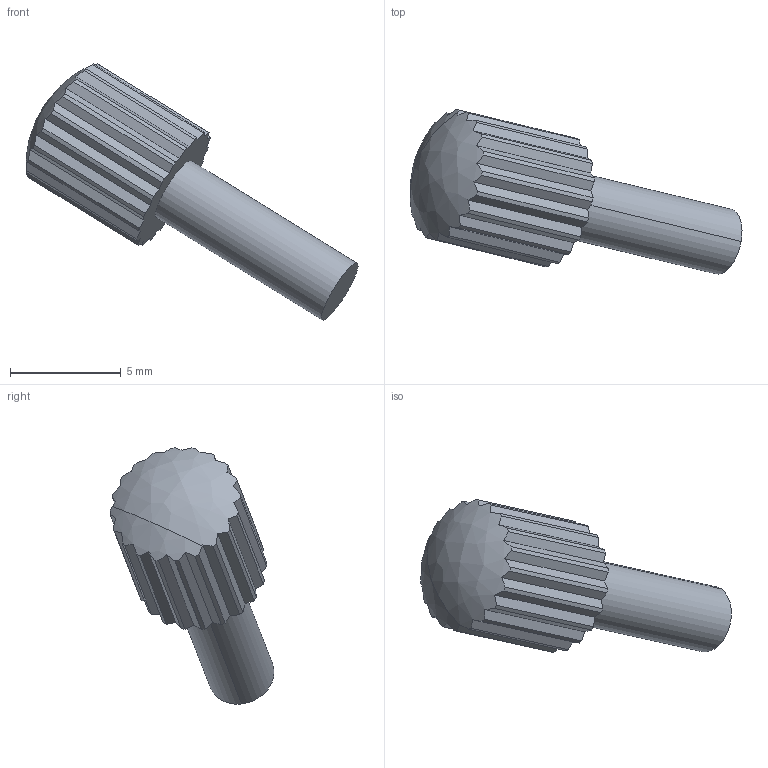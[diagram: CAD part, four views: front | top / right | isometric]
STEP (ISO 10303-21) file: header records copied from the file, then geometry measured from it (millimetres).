
FILE_DESCRIPTION (( 'STEP AP203' ), '1' );
FILE_NAME ('Vis porte oculaire_2_Défaut_sldprt.STEP', '2018-04-06T14:28:57', ( '' ), ( '' ), 'SwSTEP 2.0', 'SolidWorks 2013', '' );
FILE_SCHEMA (( 'CONFIG_CONTROL_DESIGN' ));
Length unit declared in the file: millimetre
Products named in the file (1): Vis porte oculaire_2_Défaut_sldprt
Bounding box: 14.99 x 7.4 x 11.57 mm (x, y, z)
Volume: 236.2 mm3; surface area: 269.8 mm2
Topology: 1 solids, 1 shells, 67 faces, 192 edges, 128 vertices
Faces by surface type: plane 42, cylinder 23, bspline 2
Entity records: 2334 total; most frequent: CARTESIAN_POINT 544, ORIENTED_EDGE 384, DIRECTION 329, EDGE_CURVE 192, VERTEX_POINT 128, AXIS2_PLACEMENT_3D 113, LINE 103, VECTOR 103
